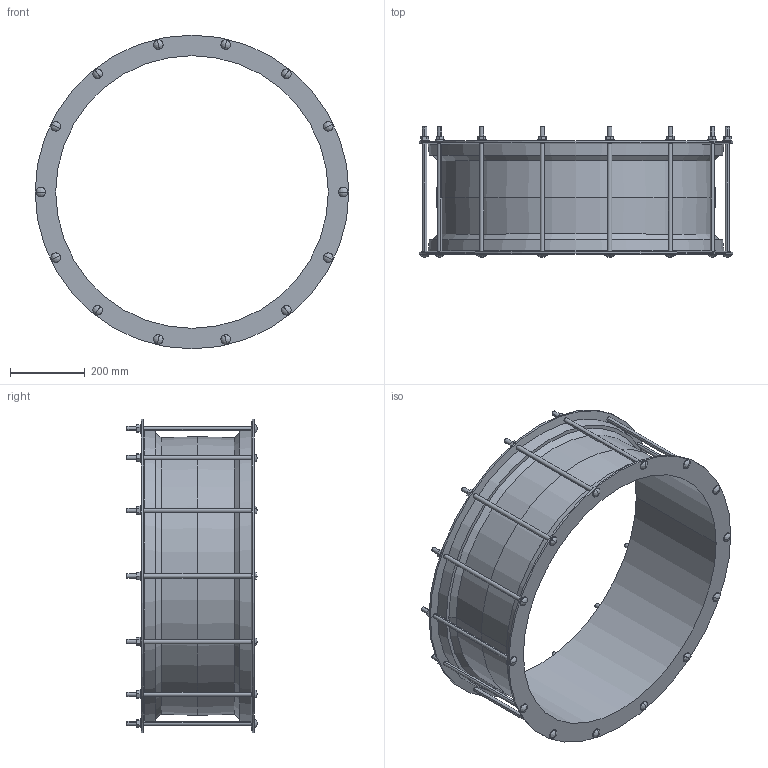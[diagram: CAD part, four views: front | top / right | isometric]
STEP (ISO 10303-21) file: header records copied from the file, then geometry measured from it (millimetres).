
FILE_DESCRIPTION((''),'2;1');
FILE_NAME('MAXIFIT_710_727','2018-12-18T',('mfairey'),('Glynwed Pipe Systems'),'CREO PARAMETRIC BY PTC INC, 2016130','CREO PARAMETRIC BY PTC INC, 2016130','');
FILE_SCHEMA(('CONFIG_CONTROL_DESIGN'));
Length unit declared in the file: millimetre
Products named in the file (1): MAXIFIT_710_727
Bounding box: 839 x 348 x 839 mm (x, y, z)
Volume: 10568560.3 mm3; surface area: 2036964.1 mm2
Topology: 1 solids, 1 shells, 292 faces, 708 edges, 444 vertices
Faces by surface type: plane 130, cylinder 118, bspline 28, cone 16
Entity records: 10586 total; most frequent: CARTESIAN_POINT 3818, DIRECTION 1370, ORIENTED_EDGE 1360, EDGE_CURVE 680, AXIS2_PLACEMENT_3D 490, VERTEX_POINT 444, VECTOR 390, LINE 390
